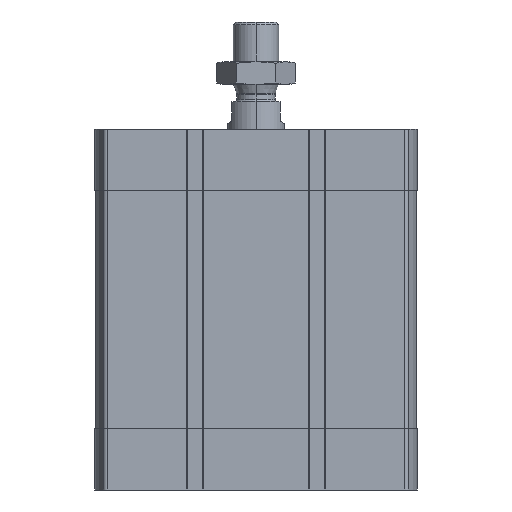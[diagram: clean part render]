
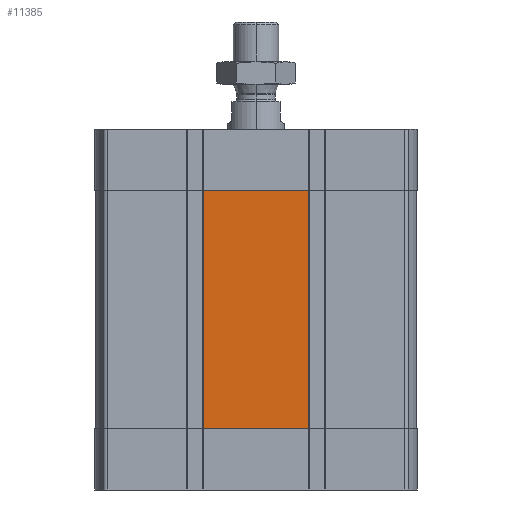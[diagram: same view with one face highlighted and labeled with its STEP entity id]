
A CAD part, left-side view. The second image highlights one B-rep face of the part: STEP entity #11385.
In plain terms, the highlighted planar face has unit normal (-1, 0, 0).
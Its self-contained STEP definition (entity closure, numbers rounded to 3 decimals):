
#473 = PLANE ( 'NONE',  #9582 ) ;
#1114 = VERTEX_POINT ( 'NONE', #1878 ) ;
#1127 = CARTESIAN_POINT ( 'NONE',  ( -56.5, 18.345, -21.5 ) ) ;
#1878 = CARTESIAN_POINT ( 'NONE',  ( -56.5, -18.345, -105.5 ) ) ;
#2405 = DIRECTION ( 'NONE',  ( -1., 0., 0. ) ) ;
#3157 = EDGE_CURVE ( 'NONE', #14744, #1114, #5473, .T. ) ;
#3951 = CARTESIAN_POINT ( 'NONE',  ( -56.5, -18.345, -105.5 ) ) ;
#5473 = LINE ( 'NONE', #17090, #19704 ) ;
#5709 = DIRECTION ( 'NONE',  ( 0., 0., 1. ) ) ;
#6043 = VECTOR ( 'NONE', #8568, 1000. ) ;
#6351 = ORIENTED_EDGE ( 'NONE', *, *, #3157, .T. ) ;
#7429 = DIRECTION ( 'NONE',  ( 0., -1., 0. ) ) ;
#8037 = ORIENTED_EDGE ( 'NONE', *, *, #13133, .F. ) ;
#8568 = DIRECTION ( 'NONE',  ( 0., 0., 1. ) ) ;
#9222 = CARTESIAN_POINT ( 'NONE',  ( -56.5, 18.345, -105.5 ) ) ;
#9582 = AXIS2_PLACEMENT_3D ( 'NONE', #16798, #2405, #5709 ) ;
#10177 = LINE ( 'NONE', #3951, #6043 ) ;
#10380 = ORIENTED_EDGE ( 'NONE', *, *, #19657, .T. ) ;
#10641 = LINE ( 'NONE', #18137, #14112 ) ;
#10728 = DIRECTION ( 'NONE',  ( 0., -1., 0. ) ) ;
#10970 = CARTESIAN_POINT ( 'NONE',  ( -56.5, 18.345, -21.5 ) ) ;
#11385 = ADVANCED_FACE ( 'NONE', ( #17121 ), #473, .T. ) ;
#13133 = EDGE_CURVE ( 'NONE', #14744, #20097, #10641, .T. ) ;
#13728 = EDGE_LOOP ( 'NONE', ( #19597, #8037, #6351, #10380 ) ) ;
#14112 = VECTOR ( 'NONE', #17919, 1000. ) ;
#14568 = VECTOR ( 'NONE', #7429, 1000. ) ;
#14744 = VERTEX_POINT ( 'NONE', #9222 ) ;
#14768 = CARTESIAN_POINT ( 'NONE',  ( -56.5, -18.345, -21.5 ) ) ;
#16798 = CARTESIAN_POINT ( 'NONE',  ( -56.5, 18.345, -105.5 ) ) ;
#16940 = EDGE_CURVE ( 'NONE', #20097, #19883, #18935, .T. ) ;
#17090 = CARTESIAN_POINT ( 'NONE',  ( -56.5, 18.345, -105.5 ) ) ;
#17121 = FACE_OUTER_BOUND ( 'NONE', #13728, .T. ) ;
#17919 = DIRECTION ( 'NONE',  ( 0., 0., 1. ) ) ;
#18137 = CARTESIAN_POINT ( 'NONE',  ( -56.5, 18.345, -105.5 ) ) ;
#18935 = LINE ( 'NONE', #10970, #14568 ) ;
#19597 = ORIENTED_EDGE ( 'NONE', *, *, #16940, .F. ) ;
#19657 = EDGE_CURVE ( 'NONE', #1114, #19883, #10177, .T. ) ;
#19704 = VECTOR ( 'NONE', #10728, 1000. ) ;
#19883 = VERTEX_POINT ( 'NONE', #14768 ) ;
#20097 = VERTEX_POINT ( 'NONE', #1127 ) ;
